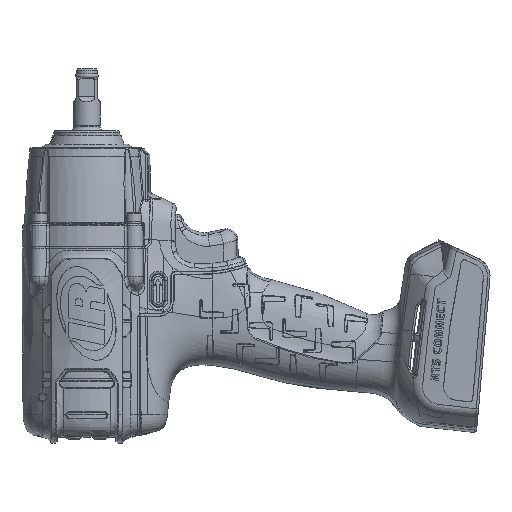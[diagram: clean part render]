
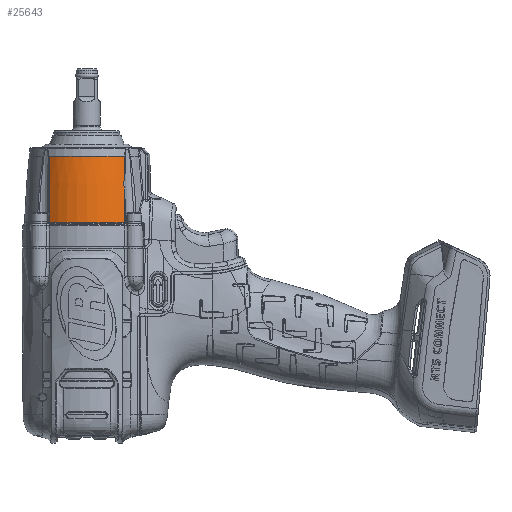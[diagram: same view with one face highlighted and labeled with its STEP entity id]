
A CAD part, left-side view. The second image highlights one B-rep face of the part: STEP entity #25643.
In plain terms, the highlighted face is a revolution surface.
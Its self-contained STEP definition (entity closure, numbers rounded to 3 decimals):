
#140=SURFACE_OF_REVOLUTION('',#1922,#147);
#147=AXIS1_PLACEMENT('',#166956,#94863);
#1922=(
BOUNDED_CURVE()
B_SPLINE_CURVE(2,(#166953,#166954,#166955),.UNSPECIFIED.,.F.,.F.)
B_SPLINE_CURVE_WITH_KNOTS((3,3),(0.,1.),.UNSPECIFIED.)
CURVE()
GEOMETRIC_REPRESENTATION_ITEM()
RATIONAL_B_SPLINE_CURVE((1.,1.,1.))
REPRESENTATION_ITEM('')
);
#10780=FACE_OUTER_BOUND('',#32438,.T.);
#17904=B_SPLINE_CURVE_WITH_KNOTS('',3,(#165683,#165684,#165685,#165686),
 .UNSPECIFIED.,.F.,.F.,(4,4),(0.,1.),.UNSPECIFIED.);
#17910=B_SPLINE_CURVE_WITH_KNOTS('',3,(#165745,#165746,#165747,#165748),
 .UNSPECIFIED.,.F.,.F.,(4,4),(0.,1.),.UNSPECIFIED.);
#17992=B_SPLINE_CURVE_WITH_KNOTS('',3,(#166857,#166858,#166859,#166860,#166861,
#166862,#166863,#166864,#166865,#166866,#166867,#166868,#166869,#166870,
#166871,#166872,#166873,#166874,#166875,#166876,#166877,#166878,#166879,
#166880,#166881,#166882,#166883,#166884,#166885,#166886),.UNSPECIFIED.,.F.,
 .F.,(4,2,2,2,2,2,2,2,2,2,2,2,2,2,4),(0.,0.25,0.281,0.313,
0.375,0.5,0.563,0.625,0.687,0.719,0.75,0.813,
0.844,0.875,1.),.UNSPECIFIED.);
#17994=B_SPLINE_CURVE_WITH_KNOTS('',3,(#166927,#166928,#166929,#166930,#166931,
#166932,#166933,#166934,#166935,#166936,#166937,#166938,#166939,#166940,
#166941,#166942,#166943,#166944,#166945,#166946,#166947,#166948,#166949,
#166950),.UNSPECIFIED.,.F.,.F.,(4,2,2,2,2,2,2,2,2,2,2,4),(0.,0.063,
0.125,0.188,0.219,0.25,0.375,0.5,
0.625,0.688,0.75,1.),.UNSPECIFIED.);
#25643=ADVANCED_FACE('',(#10780),#140,.T.);
#32438=EDGE_LOOP('',(#42227,#42228,#42229,#42230,#42231,#42232));
#42227=ORIENTED_EDGE('',*,*,#75577,.T.);
#42228=ORIENTED_EDGE('',*,*,#75434,.T.);
#42229=ORIENTED_EDGE('',*,*,#75425,.T.);
#42230=ORIENTED_EDGE('',*,*,#75423,.T.);
#42231=ORIENTED_EDGE('',*,*,#75575,.T.);
#42232=ORIENTED_EDGE('',*,*,#75578,.F.);
#66048=VERTEX_POINT('',#165602);
#66057=VERTEX_POINT('',#165681);
#66059=VERTEX_POINT('',#165704);
#66064=VERTEX_POINT('',#165737);
#66162=VERTEX_POINT('',#166856);
#66163=VERTEX_POINT('',#166951);
#75423=EDGE_CURVE('',#66048,#66057,#17904,.T.);
#75425=EDGE_CURVE('',#66059,#66048,#86411,.T.);
#75434=EDGE_CURVE('',#66064,#66059,#17910,.T.);
#75575=EDGE_CURVE('',#66057,#66162,#17992,.T.);
#75577=EDGE_CURVE('',#66163,#66064,#17994,.T.);
#75578=EDGE_CURVE('',#66163,#66162,#86474,.T.);
#86411=CIRCLE('',#88880,27.956);
#86474=CIRCLE('',#88958,25.935);
#88880=AXIS2_PLACEMENT_3D('',#165703,#94705,#94706);
#88958=AXIS2_PLACEMENT_3D('',#166952,#94861,#94862);
#94705=DIRECTION('',(0.,0.,-1.));
#94706=DIRECTION('',(0.,1.,0.));
#94861=DIRECTION('',(0.,0.,-1.));
#94862=DIRECTION('',(0.,1.,0.));
#94863=DIRECTION('',(0.,0.,-1.));
#165602=CARTESIAN_POINT('',(22.256,-16.917,-10.472));
#165681=CARTESIAN_POINT('',(22.255,-16.916,-10.51));
#165683=CARTESIAN_POINT('',(22.256,-16.917,-10.472));
#165684=CARTESIAN_POINT('',(22.256,-16.916,-10.485));
#165685=CARTESIAN_POINT('',(22.256,-16.916,-10.497));
#165686=CARTESIAN_POINT('',(22.255,-16.916,-10.51));
#165703=CARTESIAN_POINT('',(0.,0.,
-10.472));
#165704=CARTESIAN_POINT('',(22.256,16.917,-10.472));
#165737=CARTESIAN_POINT('',(22.255,16.916,-10.51));
#165745=CARTESIAN_POINT('',(22.255,16.916,-10.51));
#165746=CARTESIAN_POINT('',(22.256,16.916,-10.497));
#165747=CARTESIAN_POINT('',(22.256,16.916,-10.485));
#165748=CARTESIAN_POINT('',(22.256,16.917,-10.472));
#166856=CARTESIAN_POINT('',(19.612,-16.97,-40.482));
#166857=CARTESIAN_POINT('',(22.255,-16.916,-10.51));
#166858=CARTESIAN_POINT('',(22.169,-16.863,-13.295));
#166859=CARTESIAN_POINT('',(22.063,-16.815,-15.832));
#166860=CARTESIAN_POINT('',(21.93,-16.773,-18.425));
#166861=CARTESIAN_POINT('',(21.914,-16.768,-18.709));
#166862=CARTESIAN_POINT('',(21.884,-16.76,-19.271));
#166863=CARTESIAN_POINT('',(21.863,-16.754,-19.648));
#166864=CARTESIAN_POINT('',(21.804,-16.739,-20.662));
#166865=CARTESIAN_POINT('',(21.764,-16.729,-21.324));
#166866=CARTESIAN_POINT('',(21.639,-16.704,-23.27));
#166867=CARTESIAN_POINT('',(21.55,-16.691,-24.514));
#166868=CARTESIAN_POINT('',(21.41,-16.676,-26.3));
#166869=CARTESIAN_POINT('',(21.362,-16.672,-26.883));
#166870=CARTESIAN_POINT('',(21.264,-16.667,-28.023));
#166871=CARTESIAN_POINT('',(21.198,-16.664,-28.749));
#166872=CARTESIAN_POINT('',(21.076,-16.664,-30.035));
#166873=CARTESIAN_POINT('',(21.013,-16.665,-30.66));
#166874=CARTESIAN_POINT('',(20.916,-16.67,-31.57));
#166875=CARTESIAN_POINT('',(20.884,-16.672,-31.868));
#166876=CARTESIAN_POINT('',(20.818,-16.677,-32.456));
#166877=CARTESIAN_POINT('',(20.788,-16.68,-32.724));
#166878=CARTESIAN_POINT('',(20.662,-16.693,-33.798));
#166879=CARTESIAN_POINT('',(20.58,-16.703,-34.462));
#166880=CARTESIAN_POINT('',(20.459,-16.722,-35.382));
#166881=CARTESIAN_POINT('',(20.419,-16.729,-35.676));
#166882=CARTESIAN_POINT('',(20.341,-16.744,-36.238));
#166883=CARTESIAN_POINT('',(20.31,-16.75,-36.453));
#166884=CARTESIAN_POINT('',(20.059,-16.808,-38.141));
#166885=CARTESIAN_POINT('',(19.843,-16.877,-39.37));
#166886=CARTESIAN_POINT('',(19.612,-16.97,-40.482));
#166927=CARTESIAN_POINT('',(19.612,16.97,-40.482));
#166928=CARTESIAN_POINT('',(19.729,16.923,-39.919));
#166929=CARTESIAN_POINT('',(19.842,16.882,-39.327));
#166930=CARTESIAN_POINT('',(20.06,16.812,-38.085));
#166931=CARTESIAN_POINT('',(20.173,16.781,-37.373));
#166932=CARTESIAN_POINT('',(20.337,16.744,-36.271));
#166933=CARTESIAN_POINT('',(20.421,16.728,-35.673));
#166934=CARTESIAN_POINT('',(20.548,16.708,-34.703));
#166935=CARTESIAN_POINT('',(20.59,16.702,-34.368));
#166936=CARTESIAN_POINT('',(20.676,16.691,-33.673));
#166937=CARTESIAN_POINT('',(20.711,16.688,-33.376));
#166938=CARTESIAN_POINT('',(20.887,16.67,-31.873));
#166939=CARTESIAN_POINT('',(21.019,16.663,-30.627));
#166940=CARTESIAN_POINT('',(21.266,16.664,-28.043));
#166941=CARTESIAN_POINT('',(21.356,16.671,-26.979));
#166942=CARTESIAN_POINT('',(21.546,16.69,-24.57));
#166943=CARTESIAN_POINT('',(21.636,16.704,-23.308));
#166944=CARTESIAN_POINT('',(21.764,16.729,-21.324));
#166945=CARTESIAN_POINT('',(21.805,16.739,-20.648));
#166946=CARTESIAN_POINT('',(21.885,16.759,-19.265));
#166947=CARTESIAN_POINT('',(21.912,16.768,-18.755));
#166948=CARTESIAN_POINT('',(22.062,16.815,-15.856));
#166949=CARTESIAN_POINT('',(22.169,16.863,-13.306));
#166950=CARTESIAN_POINT('',(22.255,16.916,-10.51));
#166951=CARTESIAN_POINT('',(19.612,16.97,-40.482));
#166952=CARTESIAN_POINT('',(0.,0.,
-40.482));
#166953=CARTESIAN_POINT('',(0.,27.99,-9.506));
#166954=CARTESIAN_POINT('',(0.,27.432,-25.838));
#166955=CARTESIAN_POINT('',(0.,25.935,-40.482));
#166956=CARTESIAN_POINT('',(0.,0.,
-44.2));
